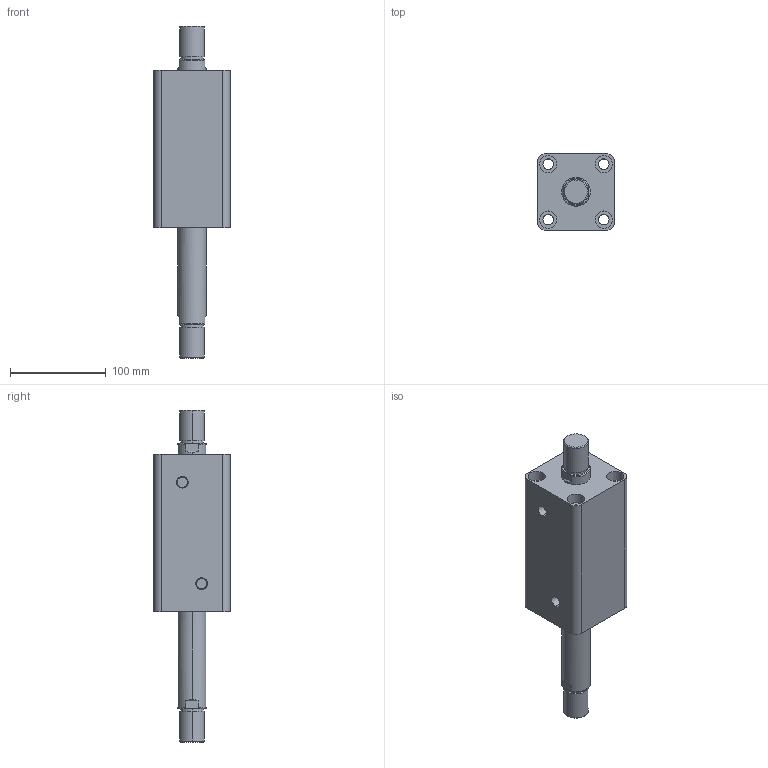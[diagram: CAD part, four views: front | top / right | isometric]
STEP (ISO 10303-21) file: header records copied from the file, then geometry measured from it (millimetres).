
FILE_DESCRIPTION (( 'STEP AP203' ), '1' );
FILE_NAME ('HTB-SW50-90W.STEP', '2019-10-07T09:25:17', ( '微软用户' ), ( '微软中国' ), 'SwSTEP 2.0', 'SolidWorks 2012', '' );
FILE_SCHEMA (( 'CONFIG_CONTROL_DESIGN' ));
Length unit declared in the file: millimetre
Products named in the file (3): HTB-SW50-90W; HTB-SW50-90W活塞杆; HTB-SW50-90掛极
Assembly tree (2 placements, depth 2):
  HTB-SW50-90W
    HTB-SW50-90掛极
    HTB-SW50-90W活塞杆
Bounding box: 80 x 80 x 347 mm (x, y, z)
Volume: 970325.2 mm3; surface area: 148653.8 mm2
Topology: 2 solids, 2 shells, 108 faces, 240 edges, 156 vertices
Faces by surface type: cylinder 52, plane 36, torus 12, cone 8
Entity records: 3449 total; most frequent: CARTESIAN_POINT 629, DIRECTION 586, ORIENTED_EDGE 480, AXIS2_PLACEMENT_3D 249, EDGE_CURVE 240, VERTEX_POINT 156, EDGE_LOOP 138, CIRCLE 136
